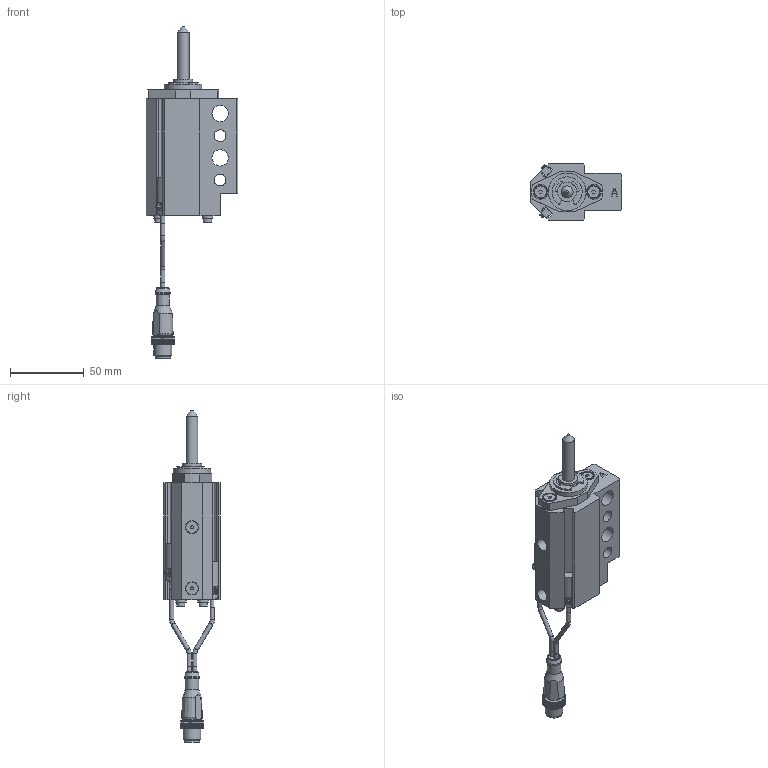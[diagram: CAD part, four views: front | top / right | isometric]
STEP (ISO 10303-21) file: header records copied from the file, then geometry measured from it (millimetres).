
FILE_DESCRIPTION(/* description */ ('NAAMS FLOATING MICRO PIN'),/* implementation_level */ '2;1');
FILE_NAME(/* name */ 'C:\Vault Workspace\CAD\Welker\Shot Pin\NMP\NMP080032AANL3.stp',/* time_stamp */ '2021-01-27T08:45:57-05:00',/* author */ ('WELKER'),/* organization */ (''),/* preprocessor_version */ 'ST-DEVELOPER v18.1',/* originating_system */ 'Autodesk Inventor 2020',/* authorisation */ '');
FILE_SCHEMA (('AUTOMOTIVE_DESIGN { 1 0 10303 214 3 1 1 }'));
Length unit declared in the file: millimetre
Products named in the file (16): NMPL01; NMP L3 SWITCH; L3 Connector; L3 Sensor 1; L3 Sensor 2; L3 Sensor cable; L3 Sensor cable 2; M3X0.5-8 SHCS; NL3; NMPE06; NMPE03; NMPE05-DIA-LENGTH; 985432A218; NMPE01A-PORT; RMPE02; M5X5 SHOULDER
Assembly tree (22 placements, depth 3):
  NMPL01
    NMP L3 SWITCH
      L3 Connector
      L3 Sensor 1
      L3 Sensor 2
      L3 Sensor cable
      L3 Sensor cable 2
    M3X0.5-8 SHCS  x4
    NL3  x4
    NMPE06
    NMPE03
    NMPE05-DIA-LENGTH
    985432A218
    NMPE01A-PORT
    RMPE02
    M5X5 SHOULDER  x2
Bounding box: 62 x 38.1 x 224.73 mm (x, y, z)
Volume: 109504.6 mm3; surface area: 45886.8 mm2
Topology: 21 solids, 21 shells, 744 faces, 2018 edges, 1349 vertices
Faces by surface type: plane 553, cylinder 144, cone 31, torus 11, sphere 3, bspline 2
Full cylindrical faces by diameter (mm): 2 x2, 2.459 x4, 2.9 x10, 3 x5, 3.242 x2, 3.4 x4, 4 x2, 5 x6, 5.5 x4, 7 x4, 8 x3, 8.3 x2, 9 x3, 10 x3, 10.4 x1, 10.5 x1, 11 x2, 12 x1, 13 x3, 16 x2, 19.05 x3, 21 x1, 22.5 x1, 23.672 x1, 24 x1, 25.4 x1, 25.5 x1, 26.5 x1, 28.677 x1, 29.21 x1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
Entity records: 22752 total; most frequent: CARTESIAN_POINT 4155, ORIENTED_EDGE 3734, DIRECTION 3717, EDGE_CURVE 1867, LINE 1383, VECTOR 1383, VERTEX_POINT 1254, AXIS2_PLACEMENT_3D 1167
